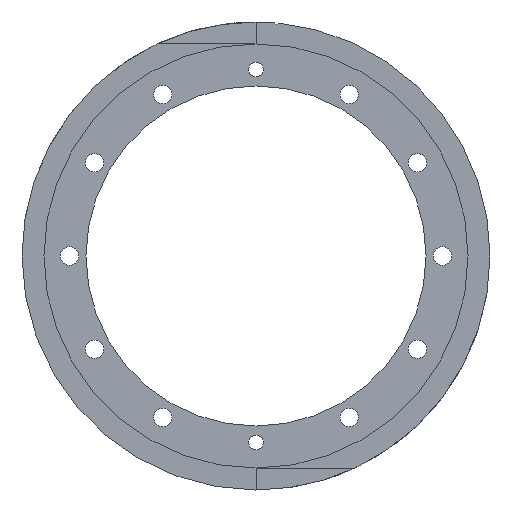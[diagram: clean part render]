
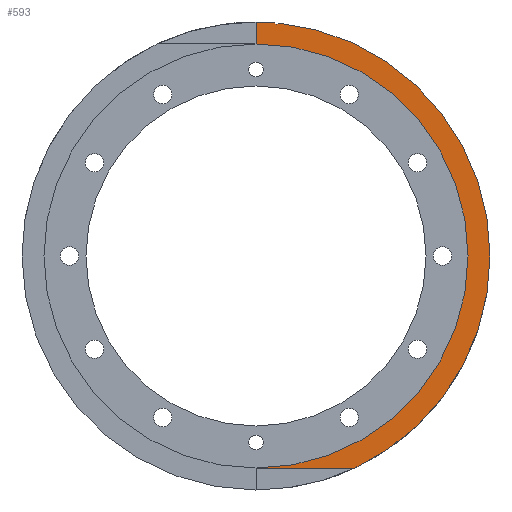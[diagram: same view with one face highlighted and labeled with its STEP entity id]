
A CAD part, front view. The second image highlights one B-rep face of the part: STEP entity #593.
In plain terms, the highlighted planar face has unit normal (0, -1, 0).
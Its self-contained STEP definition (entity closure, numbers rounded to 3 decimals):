
#60 = DIRECTION ( 'NONE',  ( 1., 0., 0. ) ) ;
#69 = VECTOR ( 'NONE', #60, 1000. ) ;
#70 = CARTESIAN_POINT ( 'NONE',  ( 1300., -1715.1, -58. ) ) ;
#71 = LINE ( 'NONE', #70, #69 ) ;
#258 = CARTESIAN_POINT ( 'NONE',  ( 1305.534, -1715.1, 63.258 ) ) ;
#288 = LINE ( 'NONE', #296, #295 ) ;
#291 = DIRECTION ( 'NONE',  ( -0.766, 0., -0.643 ) ) ;
#295 = VECTOR ( 'NONE', #291, 1000. ) ;
#296 = CARTESIAN_POINT ( 'NONE',  ( 1306.074, -1715.1, 63.711 ) ) ;
#297 = CARTESIAN_POINT ( 'NONE',  ( 1306.074, -1715.1, 63.711 ) ) ;
#464 = VERTEX_POINT ( 'NONE', #1137 ) ;
#465 = VERTEX_POINT ( 'NONE', #1136 ) ;
#494 = EDGE_CURVE ( 'NONE', #464, #465, #1188, .T. ) ;
#512 = VERTEX_POINT ( 'NONE', #1461 ) ;
#533 = EDGE_CURVE ( 'NONE', #512, #464, #1520, .T. ) ;
#556 = ORIENTED_EDGE ( 'NONE', *, *, #494, .T. ) ;
#572 = ORIENTED_EDGE ( 'NONE', *, *, #533, .T. ) ;
#582 = ORIENTED_EDGE ( 'NONE', *, *, #641, .F. ) ;
#586 = ORIENTED_EDGE ( 'NONE', *, *, #611, .T. ) ;
#590 = ORIENTED_EDGE ( 'NONE', *, *, #859, .T. ) ;
#593 = ADVANCED_FACE ( 'NONE', ( #1745 ), #1727, .T. ) ;
#596 = EDGE_CURVE ( 'NONE', #1400, #659, #1721, .T. ) ;
#603 = ORIENTED_EDGE ( 'NONE', *, *, #596, .F. ) ;
#604 = ORIENTED_EDGE ( 'NONE', *, *, #1399, .T. ) ;
#605 = ORIENTED_EDGE ( 'NONE', *, *, #606, .T. ) ;
#606 = EDGE_CURVE ( 'NONE', #1395, #643, #1684, .T. ) ;
#611 = EDGE_CURVE ( 'NONE', #677, #512, #1759, .T. ) ;
#612 = EDGE_LOOP ( 'NONE', ( #590, #616, #603, #604, #605, #582, #586, #572, #556 ) ) ;
#616 = ORIENTED_EDGE ( 'NONE', *, *, #654, .F. ) ;
#640 = VERTEX_POINT ( 'NONE', #1764 ) ;
#641 = EDGE_CURVE ( 'NONE', #677, #643, #1752, .T. ) ;
#643 = VERTEX_POINT ( 'NONE', #1754 ) ;
#654 = EDGE_CURVE ( 'NONE', #659, #640, #1857, .T. ) ;
#659 = VERTEX_POINT ( 'NONE', #1850 ) ;
#677 = VERTEX_POINT ( 'NONE', #1960 ) ;
#859 = EDGE_CURVE ( 'NONE', #465, #640, #71, .T. ) ;
#1136 = CARTESIAN_POINT ( 'NONE',  ( 1300., -1715.1, -58. ) ) ;
#1137 = CARTESIAN_POINT ( 'NONE',  ( 1358., -1715.1, 0. ) ) ;
#1188 = CIRCLE ( 'NONE', #1254, 58. ) ;
#1225 = DIRECTION ( 'NONE',  ( 1., 0., 0. ) ) ;
#1226 = DIRECTION ( 'NONE',  ( 0., 1., 0. ) ) ;
#1253 = CARTESIAN_POINT ( 'NONE',  ( 1300., -1715.1, 0. ) ) ;
#1254 = AXIS2_PLACEMENT_3D ( 'NONE', #1253, #1226, #1225 ) ;
#1395 = VERTEX_POINT ( 'NONE', #258 ) ;
#1399 = EDGE_CURVE ( 'NONE', #1400, #1395, #288, .T. ) ;
#1400 = VERTEX_POINT ( 'NONE', #297 ) ;
#1461 = CARTESIAN_POINT ( 'NONE',  ( 1300., -1715.1, 58. ) ) ;
#1520 = CIRCLE ( 'NONE', #1534, 58. ) ;
#1534 = AXIS2_PLACEMENT_3D ( 'NONE', #1559, #1560, #1546 ) ;
#1546 = DIRECTION ( 'NONE',  ( 1., 0., 0. ) ) ;
#1559 = CARTESIAN_POINT ( 'NONE',  ( 1300., -1715.1, 0. ) ) ;
#1560 = DIRECTION ( 'NONE',  ( 0., 1., 0. ) ) ;
#1673 = CARTESIAN_POINT ( 'NONE',  ( 1300., -1715.1, 0. ) ) ;
#1684 = LINE ( 'NONE', #1690, #1689 ) ;
#1688 = DIRECTION ( 'NONE',  ( -0.643, 0., 0.766 ) ) ;
#1689 = VECTOR ( 'NONE', #1688, 1000. ) ;
#1690 = CARTESIAN_POINT ( 'NONE',  ( 1305.082, -1715.1, 63.798 ) ) ;
#1718 = DIRECTION ( 'NONE',  ( 1., 0., 0. ) ) ;
#1719 = DIRECTION ( 'NONE',  ( 0., 1., 0. ) ) ;
#1720 = CARTESIAN_POINT ( 'NONE',  ( 1300., -1715.1, 0. ) ) ;
#1721 = CIRCLE ( 'NONE', #1722, 64. ) ;
#1722 = AXIS2_PLACEMENT_3D ( 'NONE', #1720, #1719, #1718 ) ;
#1723 = DIRECTION ( 'NONE',  ( 1., 0., 0. ) ) ;
#1724 = DIRECTION ( 'NONE',  ( 0., -1., 0. ) ) ;
#1727 = PLANE ( 'NONE',  #1728 ) ;
#1728 = AXIS2_PLACEMENT_3D ( 'NONE', #1673, #1724, #1723 ) ;
#1745 = FACE_OUTER_BOUND ( 'NONE', #612, .T. ) ;
#1746 = CARTESIAN_POINT ( 'NONE',  ( 1300., -1715.1, 0. ) ) ;
#1749 = DIRECTION ( 'NONE',  ( 0., 1., 0. ) ) ;
#1750 = CARTESIAN_POINT ( 'NONE',  ( 1300., -1715.1, 0. ) ) ;
#1751 = AXIS2_PLACEMENT_3D ( 'NONE', #1750, #1749, #1758 ) ;
#1752 = CIRCLE ( 'NONE', #1751, 64. ) ;
#1754 = CARTESIAN_POINT ( 'NONE',  ( 1305.082, -1715.1, 63.798 ) ) ;
#1758 = DIRECTION ( 'NONE',  ( 1., 0., 0. ) ) ;
#1759 = LINE ( 'NONE', #1746, #1796 ) ;
#1764 = CARTESIAN_POINT ( 'NONE',  ( 1327.055, -1715.1, -58. ) ) ;
#1795 = DIRECTION ( 'NONE',  ( 0., 0., -1. ) ) ;
#1796 = VECTOR ( 'NONE', #1795, 1000. ) ;
#1811 = CARTESIAN_POINT ( 'NONE',  ( 1300., -1715.1, 0. ) ) ;
#1815 = AXIS2_PLACEMENT_3D ( 'NONE', #1811, #1852, #1851 ) ;
#1850 = CARTESIAN_POINT ( 'NONE',  ( 1364., -1715.1, 0. ) ) ;
#1851 = DIRECTION ( 'NONE',  ( 1., 0., 0. ) ) ;
#1852 = DIRECTION ( 'NONE',  ( 0., 1., 0. ) ) ;
#1857 = CIRCLE ( 'NONE', #1815, 64. ) ;
#1960 = CARTESIAN_POINT ( 'NONE',  ( 1300., -1715.1, 64. ) ) ;
